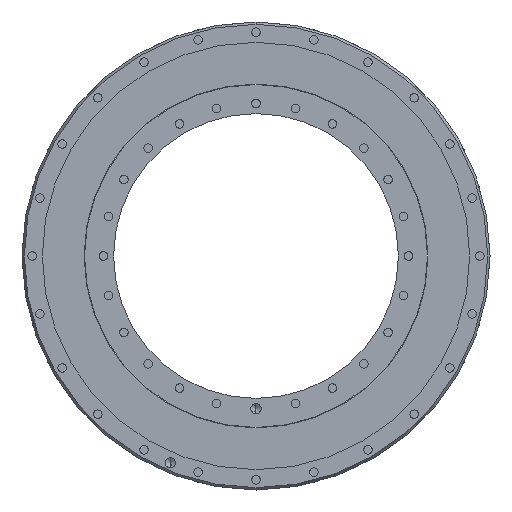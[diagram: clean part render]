
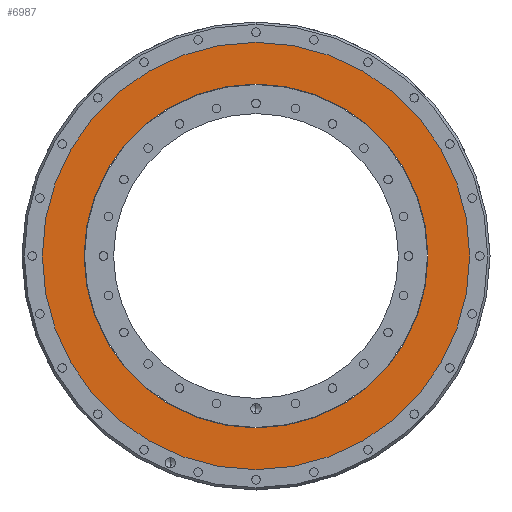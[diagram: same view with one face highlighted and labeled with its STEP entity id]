
A CAD part, front view. The second image highlights one B-rep face of the part: STEP entity #6987.
In plain terms, the highlighted planar face has unit normal (0, -1, 0).
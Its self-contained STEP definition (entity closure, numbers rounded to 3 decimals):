
#150 = DIRECTION ( 'NONE',  ( 0., 0., -1. ) ) ;
#588 = CIRCLE ( 'NONE', #10422, 105. ) ;
#1266 = VERTEX_POINT ( 'NONE', #3938 ) ;
#1658 = EDGE_LOOP ( 'NONE', ( #3495, #3745 ) ) ;
#1703 = ORIENTED_EDGE ( 'NONE', *, *, #7565, .F. ) ;
#2087 = CIRCLE ( 'NONE', #3061, 84.5 ) ;
#2092 = AXIS2_PLACEMENT_3D ( 'NONE', #7356, #7399, #9079 ) ;
#2341 = AXIS2_PLACEMENT_3D ( 'NONE', #10107, #10887, #150 ) ;
#2969 = DIRECTION ( 'NONE',  ( 0., -1., 0. ) ) ;
#3061 = AXIS2_PLACEMENT_3D ( 'NONE', #10976, #4594, #8283 ) ;
#3122 = CIRCLE ( 'NONE', #2092, 105. ) ;
#3267 = CARTESIAN_POINT ( 'NONE',  ( 0., 1., 0. ) ) ;
#3495 = ORIENTED_EDGE ( 'NONE', *, *, #4044, .T. ) ;
#3745 = ORIENTED_EDGE ( 'NONE', *, *, #8638, .T. ) ;
#3938 = CARTESIAN_POINT ( 'NONE',  ( 0., 1., -105. ) ) ;
#4044 = EDGE_CURVE ( 'NONE', #1266, #5742, #588, .T. ) ;
#4594 = DIRECTION ( 'NONE',  ( 0., -1., 0. ) ) ;
#5122 = DIRECTION ( 'NONE',  ( 0., -1., 0. ) ) ;
#5742 = VERTEX_POINT ( 'NONE', #10808 ) ;
#6390 = CARTESIAN_POINT ( 'NONE',  ( 84.5, 1., 0. ) ) ;
#6751 = ORIENTED_EDGE ( 'NONE', *, *, #10775, .F. ) ;
#6987 = ADVANCED_FACE ( 'NONE', ( #9520, #8676 ), #8302, .T. ) ;
#7356 = CARTESIAN_POINT ( 'NONE',  ( 0., 1., 0. ) ) ;
#7399 = DIRECTION ( 'NONE',  ( 0., -1., 0. ) ) ;
#7565 = EDGE_CURVE ( 'NONE', #10187, #8052, #2087, .T. ) ;
#7906 = AXIS2_PLACEMENT_3D ( 'NONE', #6390, #2969, #10134 ) ;
#8052 = VERTEX_POINT ( 'NONE', #9958 ) ;
#8129 = EDGE_LOOP ( 'NONE', ( #6751, #1703 ) ) ;
#8283 = DIRECTION ( 'NONE',  ( 0., 0., -1. ) ) ;
#8302 = PLANE ( 'NONE',  #7906 ) ;
#8638 = EDGE_CURVE ( 'NONE', #5742, #1266, #3122, .T. ) ;
#8676 = FACE_BOUND ( 'NONE', #8129, .T. ) ;
#9079 = DIRECTION ( 'NONE',  ( 0., 0., -1. ) ) ;
#9514 = DIRECTION ( 'NONE',  ( 0., 0., -1. ) ) ;
#9520 = FACE_OUTER_BOUND ( 'NONE', #1658, .T. ) ;
#9742 = CARTESIAN_POINT ( 'NONE',  ( 0., 1., 84.5 ) ) ;
#9958 = CARTESIAN_POINT ( 'NONE',  ( 0., 1., -84.5 ) ) ;
#10062 = CIRCLE ( 'NONE', #2341, 84.5 ) ;
#10107 = CARTESIAN_POINT ( 'NONE',  ( 0., 1., 0. ) ) ;
#10134 = DIRECTION ( 'NONE',  ( 0., 0., -1. ) ) ;
#10187 = VERTEX_POINT ( 'NONE', #9742 ) ;
#10422 = AXIS2_PLACEMENT_3D ( 'NONE', #3267, #5122, #9514 ) ;
#10775 = EDGE_CURVE ( 'NONE', #8052, #10187, #10062, .T. ) ;
#10808 = CARTESIAN_POINT ( 'NONE',  ( 0., 1., 105. ) ) ;
#10887 = DIRECTION ( 'NONE',  ( 0., -1., 0. ) ) ;
#10976 = CARTESIAN_POINT ( 'NONE',  ( 0., 1., 0. ) ) ;
